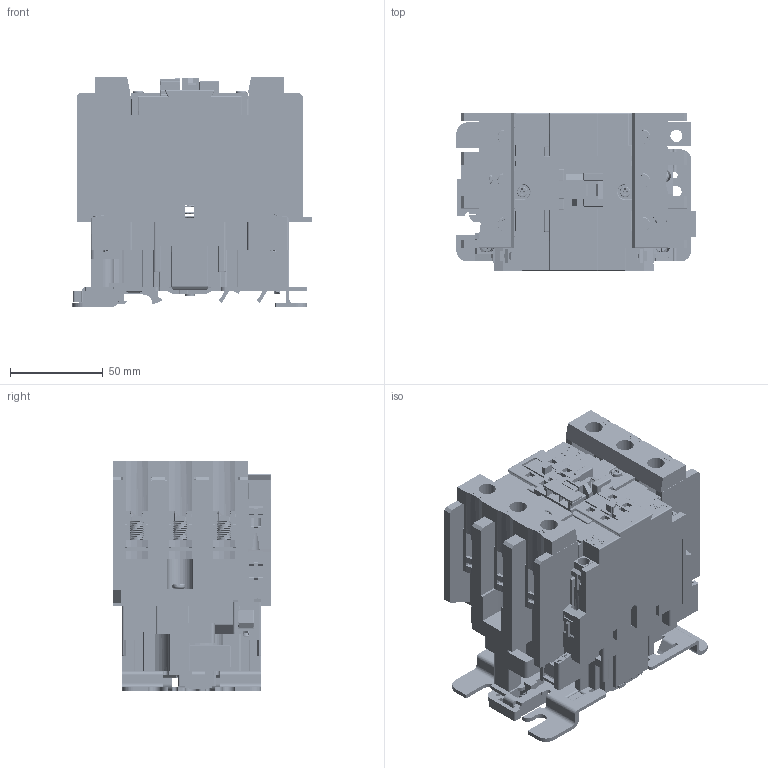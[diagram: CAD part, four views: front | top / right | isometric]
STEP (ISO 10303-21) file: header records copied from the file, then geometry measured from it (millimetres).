
FILE_DESCRIPTION((''),'2;1');
FILE_NAME('CJX2-8000_ASM','2023-07-28T10:36:25',('Administrator'),(''),'CREO PARAMETRIC BY PTC INC, 2020033','CREO PARAMETRIC BY PTC INC, 2020033','');
FILE_SCHEMA(('CONFIG_CONTROL_DESIGN'));
Products named in the file (38): CJX2-40000; CJX2-4000; CJX2-40_A; CJX2-40100; CJX2-40200; CJX2-40000_ASM; CJX2-400009; CJX2-400010; CJX2-400011; M3_5X9_50002; 7_5X2_600; M3_5X9_50001_ASM; CJX2-400008_ASM; CJX2-8000; CJX2-800005; CJX2-40001; CJX2-400014; CJX2-400015; CJX2-40_AF_ASM; M3_5X180001; M3_5X480001; CJX2-400016; CJX2-09000; CJX2-80000; CJX2-8000_ASM
Assembly tree (99 placements, depth 4):
  CJX2-8000_ASM
    CJX2-40000
    CJX2-4000
    CJX2-40_A
    CJX2-40000_ASM
      CJX2-40000  x39
      CJX2-40100  x2
      CJX2-40200
    CJX2-40000  x2
    CJX2-4000
    CJX2-400008_ASM
      CJX2-400009
      CJX2-400010
      CJX2-400011
      M3_5X9_50001_ASM  x3
        M3_5X9_50002
        7_5X2_600
    CJX2-4000
    CJX2-8000
    CJX2-8000
    CJX2-8000
    CJX2-800005
    CJX2-40_AF_ASM
      CJX2-40001
      CJX2-400014
      CJX2-400015
    CJX2-40_AF_ASM
      CJX2-40001
      CJX2-400014
      CJX2-400015
    CJX2-40_AF_ASM
      CJX2-40001
      CJX2-400014
      CJX2-400015
    CJX2-40_AF_ASM
      CJX2-40001
      CJX2-400014
      CJX2-400015
    CJX2-40_AF_ASM
      CJX2-40001
      CJX2-400014
      CJX2-400015
    CJX2-40_AF_ASM
      CJX2-40001
      CJX2-400014
      CJX2-400015
    M3_5X180001  x2
    M3_5X480001  x2
    CJX2-400016  x3
    CJX2-09000
    CJX2-80000
    CJX2-80000
    CJX2-80000  x2
Bounding box: 129.05 x 85 x 124.3 mm (x, y, z)
Volume: 693032.6 mm3; surface area: 350168 mm2
Topology: 98 solids, 98 shells, 7343 faces, 20644 edges, 13629 vertices
Faces by surface type: plane 4925, cylinder 1901, bspline 367, torus 70, sphere 61, cone 19
Entity records: 166311 total; most frequent: CARTESIAN_POINT 46873, ORIENTED_EDGE 25722, DIRECTION 22974, EDGE_CURVE 12861, VECTOR 10686, LINE 10686, VERTEX_POINT 8501, AXIS2_PLACEMENT_3D 6144
